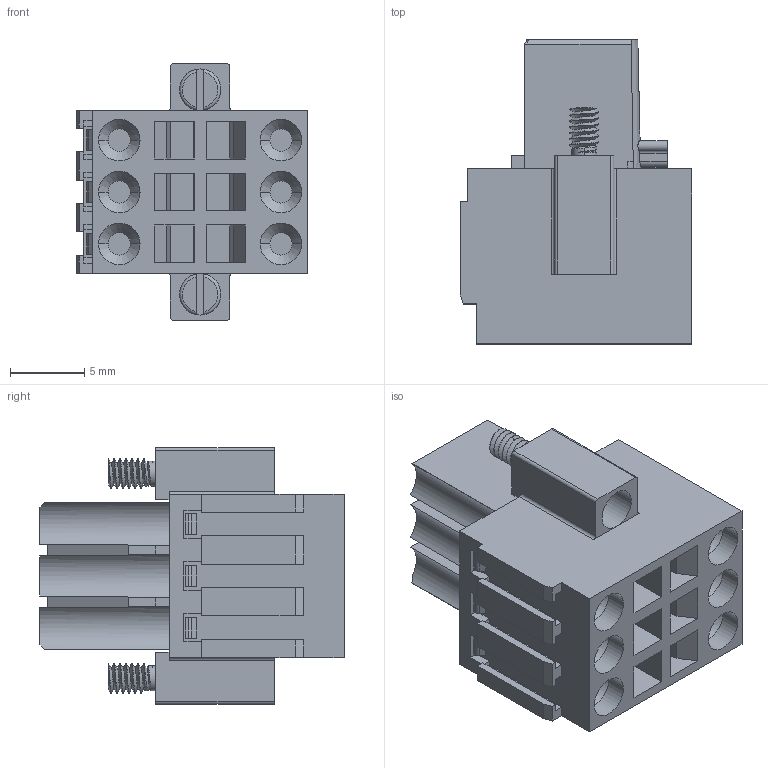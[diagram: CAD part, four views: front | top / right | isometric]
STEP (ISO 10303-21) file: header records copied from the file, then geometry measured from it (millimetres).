
FILE_DESCRIPTION((''),'2;1');
FILE_NAME('3PIN_SW0001','2019-05-15T',('zhenbing.lai'),(''),'CREO PARAMETRIC BY PTC INC, 2016260','CREO PARAMETRIC BY PTC INC, 2016260','');
FILE_SCHEMA(('CONFIG_CONTROL_DESIGN'));
Length unit declared in the file: millimetre
Products named in the file (1): 3PIN_SW0001
Bounding box: 15.6 x 20.5 x 17.3 mm (x, y, z)
Volume: 2502.1 mm3; surface area: 2208.1 mm2
Topology: 1 solids, 7 shells, 507 faces, 1343 edges, 888 vertices
Faces by surface type: plane 360, cylinder 106, cone 15, bspline 14, torus 12
Entity records: 21321 total; most frequent: CARTESIAN_POINT 8801, ORIENTED_EDGE 2686, DIRECTION 2412, EDGE_CURVE 1343, VECTOR 960, LINE 960, VERTEX_POINT 888, AXIS2_PLACEMENT_3D 726
